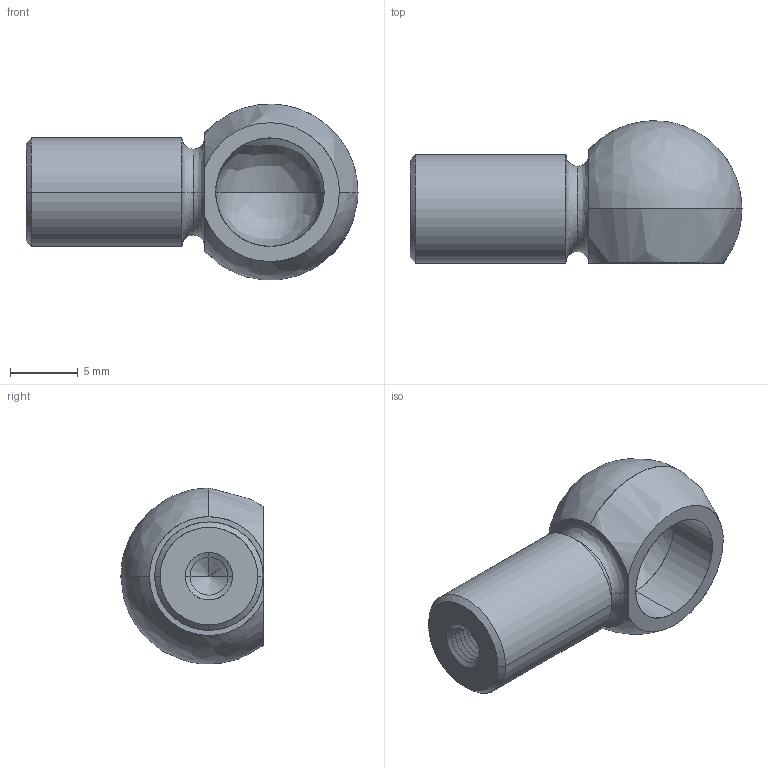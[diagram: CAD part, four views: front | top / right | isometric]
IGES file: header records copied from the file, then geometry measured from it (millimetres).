
Start section: SolidWorks IGES file using analytic representation for surfaces
Bounding box: 24.5 x 10.5 x 12.98 mm (x, y, z)
Surface area: 1118.2 mm2 (no closed solid volume)
Topology: 0 solids, 0 shells, 112 faces, 772 edges, 761 vertices
Faces by surface type: revolution 99, bspline 13
